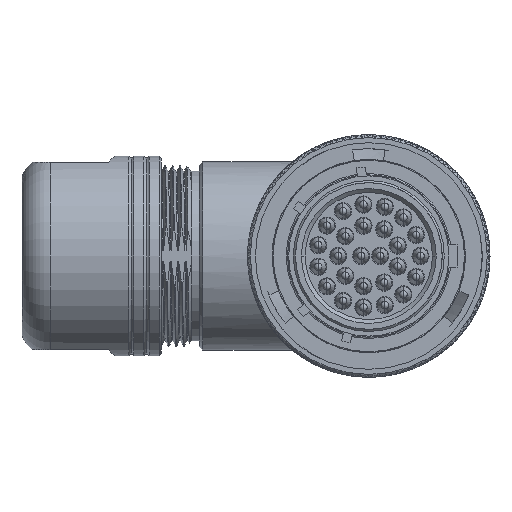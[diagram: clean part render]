
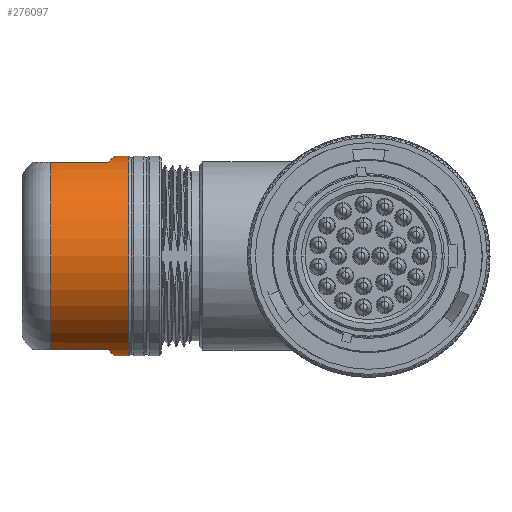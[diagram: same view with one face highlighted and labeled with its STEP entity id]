
A CAD part, front view. The second image highlights one B-rep face of the part: STEP entity #276097.
In plain terms, the highlighted cylindrical face has radius 13.25 mm (diameter 26.5 mm), a partial arc.
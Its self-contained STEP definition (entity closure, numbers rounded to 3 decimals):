
#3 = ORIENTED_EDGE ( 'NONE', *, *, #22852, .F. ) ;
#21190 = DIRECTION ( 'NONE',  ( 0., 0., -1. ) ) ;
#22852 = EDGE_CURVE ( 'NONE', #184250, #110072, #33130, .T. ) ;
#27700 = CARTESIAN_POINT ( 'NONE',  ( -33.801, 32.051, -13.149 ) ) ;
#33130 = LINE ( 'NONE', #89385, #87523 ) ;
#34121 = DIRECTION ( 'NONE',  ( -1., 0., 0. ) ) ;
#35955 = CIRCLE ( 'NONE', #135486, 13.25 ) ;
#37376 = EDGE_CURVE ( 'NONE', #128355, #145031, #241355, .T. ) ;
#38778 = ORIENTED_EDGE ( 'NONE', *, *, #241674, .F. ) ;
#42133 = FACE_OUTER_BOUND ( 'NONE', #292651, .T. ) ;
#44204 = CARTESIAN_POINT ( 'NONE',  ( -34.198, 30.075, 12.752 ) ) ;
#44385 = EDGE_CURVE ( 'NONE', #145031, #110072, #287512, .T. ) ;
#50791 = ORIENTED_EDGE ( 'NONE', *, *, #37376, .T. ) ;
#51039 = CARTESIAN_POINT ( 'NONE',  ( -33.874, 31.568, -13.076 ) ) ;
#58431 = CARTESIAN_POINT ( 'NONE',  ( -34.5, 29.173, -12.45 ) ) ;
#61419 = CARTESIAN_POINT ( 'NONE',  ( -31.846, 33.708, -13.25 ) ) ;
#66023 = ORIENTED_EDGE ( 'NONE', *, *, #107359, .T. ) ;
#67533 = CARTESIAN_POINT ( 'NONE',  ( -33.969, 31.047, 12.981 ) ) ;
#74332 = CARTESIAN_POINT ( 'NONE',  ( -33.899, 31.421, -13.051 ) ) ;
#74476 = CARTESIAN_POINT ( 'NONE',  ( -42.2, 29.173, 12.45 ) ) ;
#78306 = VERTEX_POINT ( 'NONE', #248207 ) ;
#78311 = VERTEX_POINT ( 'NONE', #105162 ) ;
#81708 = AXIS2_PLACEMENT_3D ( 'NONE', #299219, #160140, #21190 ) ;
#87523 = VECTOR ( 'NONE', #298471, 1000. ) ;
#89385 = CARTESIAN_POINT ( 'NONE',  ( -33.7, 33.708, 13.25 ) ) ;
#90045 = B_SPLINE_CURVE_WITH_KNOTS ( 'NONE', 3,
 ( #143321, #282454, #166646, #27700, #189975, #51039, #213283, #74332, #236665, #97635, #260003 ),
 .UNSPECIFIED., .F., .F.,
 ( 4, 1, 1, 1, 2, 2, 4 ),
 ( 0., 0.25, 0.375, 0.438, 0.469, 0.5, 1. ),
 .UNSPECIFIED. ) ;
#90797 = CARTESIAN_POINT ( 'NONE',  ( -33.924, 31.281, 13.026 ) ) ;
#97635 = CARTESIAN_POINT ( 'NONE',  ( -34.239, 29.89, -12.711 ) ) ;
#99904 = AXIS2_PLACEMENT_3D ( 'NONE', #111409, #134784, #250462 ) ;
#103348 = VECTOR ( 'NONE', #282695, 1000. ) ;
#105162 = CARTESIAN_POINT ( 'NONE',  ( -34.5, 29.173, -12.45 ) ) ;
#107359 = EDGE_CURVE ( 'NONE', #173180, #287395, #35955, .T. ) ;
#110072 = VERTEX_POINT ( 'NONE', #158516 ) ;
#111409 = CARTESIAN_POINT ( 'NONE',  ( -46.925, 33.708, 0. ) ) ;
#114100 = CARTESIAN_POINT ( 'NONE',  ( -33.769, 32.146, 13.181 ) ) ;
#121022 = CARTESIAN_POINT ( 'NONE',  ( -42.2, 33.708, 0. ) ) ;
#127923 = CARTESIAN_POINT ( 'NONE',  ( -42.2, 29.173, 12.45 ) ) ;
#128355 = VERTEX_POINT ( 'NONE', #170128 ) ;
#132725 = EDGE_CURVE ( 'NONE', #78311, #287395, #235667, .T. ) ;
#134784 = DIRECTION ( 'NONE',  ( 1., 0., 0. ) ) ;
#135311 = EDGE_CURVE ( 'NONE', #173180, #78306, #173327, .T. ) ;
#135486 = AXIS2_PLACEMENT_3D ( 'NONE', #121022, #283513, #144375 ) ;
#137460 = CARTESIAN_POINT ( 'NONE',  ( -33.7, 33.708, 13.25 ) ) ;
#143321 = CARTESIAN_POINT ( 'NONE',  ( -33.7, 33.708, -13.25 ) ) ;
#143563 = CARTESIAN_POINT ( 'NONE',  ( -33.7, 33.708, -13.25 ) ) ;
#144375 = DIRECTION ( 'NONE',  ( 0., -0.342, 0.94 ) ) ;
#145031 = VERTEX_POINT ( 'NONE', #61419 ) ;
#158516 = CARTESIAN_POINT ( 'NONE',  ( -31.846, 33.708, 13.25 ) ) ;
#160140 = DIRECTION ( 'NONE',  ( -1., 0., 0. ) ) ;
#164370 = CARTESIAN_POINT ( 'NONE',  ( -33.7, 33.708, 13.25 ) ) ;
#166646 = CARTESIAN_POINT ( 'NONE',  ( -33.726, 32.73, -13.224 ) ) ;
#170128 = CARTESIAN_POINT ( 'NONE',  ( -33.7, 33.708, -13.25 ) ) ;
#173180 = VERTEX_POINT ( 'NONE', #74476 ) ;
#173327 = LINE ( 'NONE', #127923, #296909 ) ;
#173921 = VECTOR ( 'NONE', #34121, 1000. ) ;
#183110 = CARTESIAN_POINT ( 'NONE',  ( -34.37, 29.532, 12.58 ) ) ;
#184250 = VERTEX_POINT ( 'NONE', #164370 ) ;
#189975 = CARTESIAN_POINT ( 'NONE',  ( -33.85, 31.712, -13.1 ) ) ;
#198846 = EDGE_CURVE ( 'NONE', #78306, #184250, #237160, .T. ) ;
#206472 = CARTESIAN_POINT ( 'NONE',  ( -34.039, 30.721, 12.911 ) ) ;
#210208 = CARTESIAN_POINT ( 'NONE',  ( -42.2, 29.173, -12.45 ) ) ;
#212677 = CYLINDRICAL_SURFACE ( 'NONE', #99904, 13.25 ) ;
#213283 = CARTESIAN_POINT ( 'NONE',  ( -33.89, 31.471, -13.06 ) ) ;
#220239 = ORIENTED_EDGE ( 'NONE', *, *, #135311, .F. ) ;
#229804 = CARTESIAN_POINT ( 'NONE',  ( -33.942, 31.187, 13.008 ) ) ;
#235667 = LINE ( 'NONE', #58431, #173921 ) ;
#236665 = CARTESIAN_POINT ( 'NONE',  ( -34.041, 30.624, -12.909 ) ) ;
#237160 = B_SPLINE_CURVE_WITH_KNOTS ( 'NONE', 3,
 ( #298877, #183110, #44204, #206472, #67533, #229804, #90797, #253153, #114100, #276578, #137460 ),
 .UNSPECIFIED., .F., .F.,
 ( 4, 1, 1, 1, 2, 2, 4 ),
 ( 0., 0.25, 0.375, 0.437, 0.469, 0.5, 1. ),
 .UNSPECIFIED. ) ;
#241355 = LINE ( 'NONE', #143563, #103348 ) ;
#241674 = EDGE_CURVE ( 'NONE', #128355, #78311, #90045, .T. ) ;
#248207 = CARTESIAN_POINT ( 'NONE',  ( -34.5, 29.173, 12.45 ) ) ;
#248490 = ORIENTED_EDGE ( 'NONE', *, *, #44385, .T. ) ;
#250462 = DIRECTION ( 'NONE',  ( 0., 0., 1. ) ) ;
#253153 = CARTESIAN_POINT ( 'NONE',  ( -33.916, 31.326, 13.034 ) ) ;
#260003 = CARTESIAN_POINT ( 'NONE',  ( -34.5, 29.173, -12.45 ) ) ;
#267012 = DIRECTION ( 'NONE',  ( 1., 0., 0. ) ) ;
#273431 = ORIENTED_EDGE ( 'NONE', *, *, #198846, .F. ) ;
#276097 = ADVANCED_FACE ( 'NONE', ( #42133 ), #212677, .T. ) ;
#276578 = CARTESIAN_POINT ( 'NONE',  ( -33.7, 32.923, 13.25 ) ) ;
#282454 = CARTESIAN_POINT ( 'NONE',  ( -33.7, 33.316, -13.25 ) ) ;
#282695 = DIRECTION ( 'NONE',  ( 1., 0., 0. ) ) ;
#283513 = DIRECTION ( 'NONE',  ( 1., 0., 0. ) ) ;
#287395 = VERTEX_POINT ( 'NONE', #210208 ) ;
#287512 = CIRCLE ( 'NONE', #81708, 13.25 ) ;
#290478 = ORIENTED_EDGE ( 'NONE', *, *, #132725, .F. ) ;
#292651 = EDGE_LOOP ( 'NONE', ( #3, #273431, #220239, #66023, #290478, #38778, #50791, #248490 ) ) ;
#296909 = VECTOR ( 'NONE', #267012, 1000. ) ;
#298471 = DIRECTION ( 'NONE',  ( 1., 0., 0. ) ) ;
#298877 = CARTESIAN_POINT ( 'NONE',  ( -34.5, 29.173, 12.45 ) ) ;
#299219 = CARTESIAN_POINT ( 'NONE',  ( -31.846, 33.708, 0. ) ) ;
